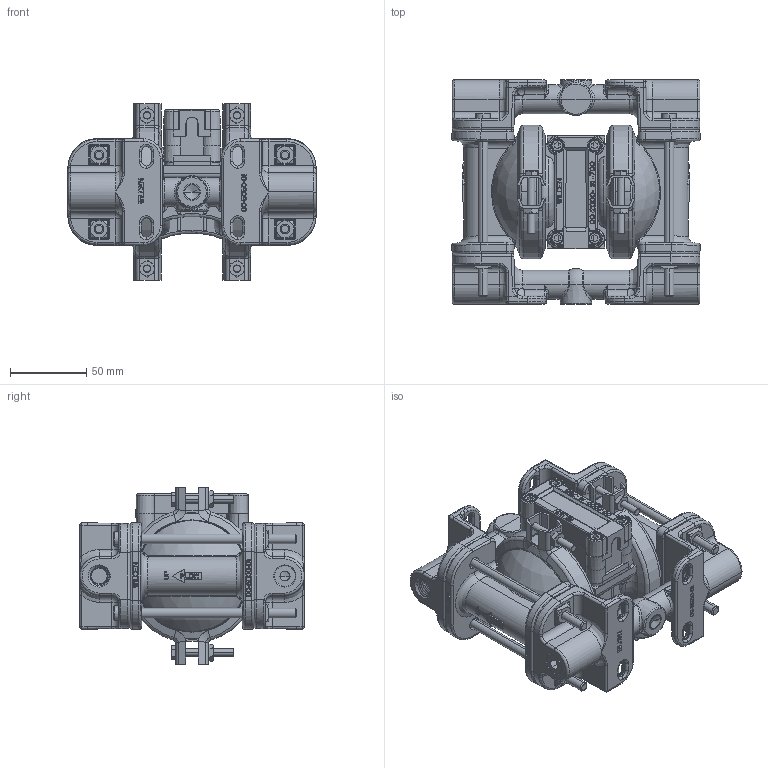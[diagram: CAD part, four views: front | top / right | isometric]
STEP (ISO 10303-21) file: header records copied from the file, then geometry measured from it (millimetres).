
FILE_DESCRIPTION (( 'STEP AP203' ), '1' );
FILE_NAME ('p025_metal.STEP', '2022-07-04T19:56:50', ( '' ), ( '' ), 'SwSTEP 2.0', 'SolidWorks 2019', '' );
FILE_SCHEMA (( 'CONFIG_CONTROL_DESIGN' ));
Length unit declared in the file: inch
Products named in the file (1): p025_metal
Bounding box: 163.01 x 147.32 x 115.9 mm (x, y, z)
Volume: 884225.7 mm3; surface area: 160236.6 mm2
Topology: 1 solids, 1 shells, 4874 faces, 12704 edges, 8034 vertices
Faces by surface type: plane 3117, cylinder 668, cone 404, bspline 394, torus 225, sphere 66
Entity records: 231901 total; most frequent: CARTESIAN_POINT 116099, ORIENTED_EDGE 25384, DIRECTION 21872, EDGE_CURVE 12692, VECTOR 8970, LINE 8970, VERTEX_POINT 8032, AXIS2_PLACEMENT_3D 6451
